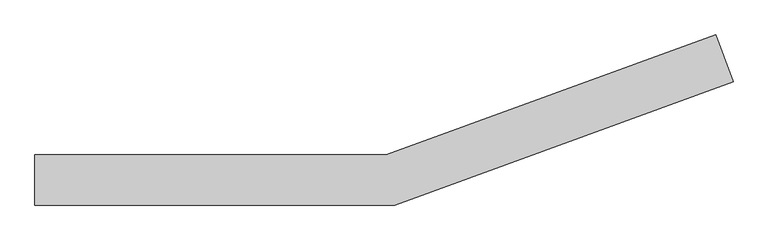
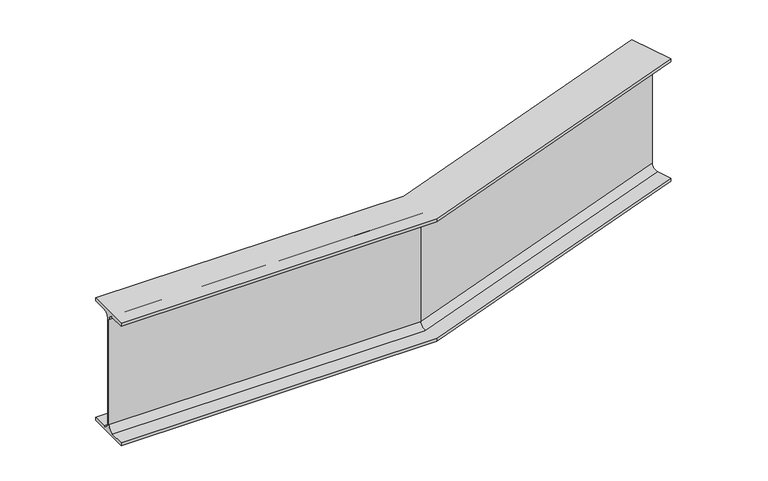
"""IFC4 building model written with IfcOpenShell, lengths in millimetres: beam geometry, Cranked Beam B1 : Cranked Beam B1."""

from ifc_helpers import new_model, si_unit, frame, origin, place, context, project, spatial, polyline, circle_curve, ellipse_curve, source, transform, mapped, element, save
from ifc_brep_helpers import plane_surface, revolved_surface, advanced_brep


def beam_3adde7b2(model_context):
    return source(origin(), model_context, "Body", "AdvancedBrep", [
        advanced_brep(
        [(30484.4500022, 15287.0000005, 3256.0), (30484.4500022, 15338.3000005, 3256.0), (30484.4500022, 15359.4000005, 3277.1), (30484.4500022, 15359.4000005, 3662.9), (30484.4500022, 15338.3000005, 3684.0), (30484.4500022, 15287.0000005, 3684.0), (30484.4500022, 15287.0000005, 3694.9), (30484.4500022, 15439.4000005, 3694.9), (30484.4500022, 15439.4000005, 3684.0), (30484.4500022, 15388.1000005, 3684.0), (30484.4500022, 15367.0000005, 3662.9), (30484.4500022, 15367.0000005, 3277.1), (30484.4500022, 15388.1000005, 3256.0), (30484.4500022, 15439.4000005, 3256.0), (30484.4500022, 15439.4000005, 3245.1), (30484.4500022, 15287.0000005, 3245.1), (31580.7314082, 15287.0000005, 3256.0), (32610.8989551, 15661.9503238, 3256.0), (32593.3533217, 15710.1565552, 3256.0), (31571.6858341, 15338.3000005, 3256.0), (31567.9653348, 15359.4000005, 3277.1), (31567.9653348, 15359.4000005, 3662.9), (31571.6858341, 15338.3000005, 3684.0), (32593.3533217, 15710.1565552, 3684.0), (32610.8989551, 15661.9503238, 3684.0), (31580.7314082, 15287.0000005, 3684.0), (31580.7314082, 15287.0000005, 3694.9), (32610.8989551, 15661.9503238, 3694.9), (32558.7750852, 15805.1594792, 3694.9), (31553.8591764, 15439.4000005, 3694.9), (31553.8591764, 15439.4000005, 3684.0), (32558.7750852, 15805.1594792, 3684.0), (32576.3207186, 15756.9532478, 3684.0), (31562.9047505, 15388.1000005, 3684.0), (31566.6252498, 15367.0000005, 3662.9), (31566.6252498, 15367.0000005, 3277.1), (31562.9047505, 15388.1000005, 3256.0), (32576.3207186, 15756.9532478, 3256.0), (32558.7750852, 15805.1594792, 3256.0), (31553.8591764, 15439.4000005, 3256.0), (31553.8591764, 15439.4000005, 3245.1), (32558.7750852, 15805.1594792, 3245.1), (32610.8989551, 15661.9503238, 3245.1), (31580.7314082, 15287.0000005, 3245.1), (32583.5373436, 15737.1257335, 3277.1), (32583.5373436, 15737.1257335, 3662.9), (32586.1366967, 15729.9840695, 3662.9), (32586.1366967, 15729.9840695, 3277.1)],
        [
            (0, 1),
            (1, 2, circle_curve(frame((30484.4500022, 15338.3000005, 3277.1), z_axis=(1.0, 0.0, 0.0), x_axis=(0.0, 1.0, 0.0)), 21.1)),
            (2, 3),
            (3, 4, circle_curve(frame((30484.4500022, 15338.3000005, 3662.9), z_axis=(1.0, 0.0, 0.0), x_axis=(0.0, 1.0, 0.0)), 21.1)),
            (4, 5),
            (5, 6),
            (6, 7),
            (7, 8),
            (8, 9),
            (9, 10, circle_curve(frame((30484.4500022, 15388.1000005, 3662.9), z_axis=(1.0, 0.0, 0.0), x_axis=(0.0, 1.0, 0.0)), 21.1)),
            (10, 11),
            (11, 12, circle_curve(frame((30484.4500022, 15388.1000005, 3277.1), z_axis=(1.0, 0.0, 0.0), x_axis=(0.0, 1.0, 0.0)), 21.1)),
            (12, 13),
            (13, 14),
            (14, 15),
            (15, 0),
            (0, 16),
            (16, 17),
            (17, 18),
            (18, 19),
            (19, 1),
            (19, 20, ellipse_curve(frame((31571.6858341, 15338.3000005, 3277.1), z_axis=(0.9848077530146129, 0.17364817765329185, 0.0), x_axis=(0.17364817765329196, -0.984807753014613, 0.0)), 21.4255015, 21.1)),
            (20, 2),
            (20, 21),
            (21, 3),
            (21, 22, ellipse_curve(frame((31571.6858341, 15338.3000005, 3662.9), z_axis=(0.9848077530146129, 0.17364817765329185, 0.0), x_axis=(0.17364817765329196, -0.984807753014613, 0.0)), 21.4255015, 21.1)),
            (22, 4),
            (22, 23),
            (23, 24),
            (24, 25),
            (25, 5),
            (25, 26),
            (26, 6),
            (26, 27),
            (27, 28),
            (28, 29),
            (29, 7),
            (29, 30),
            (30, 8),
            (30, 31),
            (31, 32),
            (32, 33),
            (33, 9),
            (33, 34, ellipse_curve(frame((31562.9047505, 15388.1000005, 3662.9), z_axis=(0.9848077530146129, 0.17364817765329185, 0.0), x_axis=(0.17364817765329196, -0.984807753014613, 0.0)), 21.4255015, 21.1)),
            (34, 10),
            (34, 35),
            (35, 11),
            (35, 36, ellipse_curve(frame((31562.9047505, 15388.1000005, 3277.1), z_axis=(0.9848077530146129, 0.17364817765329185, 0.0), x_axis=(0.17364817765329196, -0.984807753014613, 0.0)), 21.4255015, 21.1)),
            (36, 12),
            (36, 37),
            (37, 38),
            (38, 39),
            (39, 13),
            (39, 40),
            (40, 14),
            (40, 41),
            (41, 42),
            (42, 43),
            (43, 15),
            (43, 16),
            (17, 42),
            (41, 38),
            (37, 44, circle_curve(frame((32576.3207186, 15756.9532478, 3277.1), z_axis=(-0.9396926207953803, -0.34202014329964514, 0.0), x_axis=(-0.34202014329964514, 0.9396926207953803, 0.0)), 21.1)),
            (44, 45),
            (45, 32, circle_curve(frame((32576.3207186, 15756.9532478, 3662.9), z_axis=(-0.9396926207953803, -0.34202014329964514, 0.0), x_axis=(-0.34202014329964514, 0.9396926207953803, 0.0)), 21.1)),
            (31, 28),
            (27, 24),
            (23, 46, circle_curve(frame((32593.3533217, 15710.1565552, 3662.9), z_axis=(-0.9396926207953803, -0.34202014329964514, 0.0), x_axis=(-0.34202014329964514, 0.9396926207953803, 0.0)), 21.1)),
            (46, 47),
            (47, 18, circle_curve(frame((32593.3533217, 15710.1565552, 3277.1), z_axis=(-0.9396926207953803, -0.34202014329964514, 0.0), x_axis=(-0.34202014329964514, 0.9396926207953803, 0.0)), 21.1)),
            (47, 20),
            (46, 21),
            (45, 34),
            (44, 35),
        ],
        [
            plane_surface(frame((30484.4500022, 15363.2000005, 3695.0), z_axis=(-1.0, 0.0, 0.0), x_axis=(0.0, 0.0, 1.0))),
            plane_surface(frame((30484.4500022, 15287.0000005, 3256.0), z_axis=(0.0, 0.0, 1.0), x_axis=(1.0, 0.0, 0.0))),
            revolved_surface(polyline([(31575.406333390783, 15359.4000005, 3277.1), (30484.4500022, 15359.4000005, 3277.1)]), (30484.4500022, 15338.3000005, 3277.1), (1.0, 0.0, 0.0)),
            plane_surface(frame((30484.4500022, 15359.4000005, 3277.1), z_axis=(0.0, -1.0, 0.0), x_axis=(1.0, 0.0, 0.0))),
            revolved_surface(polyline([(31575.406333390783, 15359.4000005, 3662.9), (30484.4500022, 15359.4000005, 3662.9)]), (30484.4500022, 15338.3000005, 3662.9), (1.0, 0.0, 0.0)),
            plane_surface(frame((30484.4500022, 15338.3000005, 3684.0), z_axis=(0.0, 0.0, -1.0), x_axis=(1.0, 0.0, 0.0))),
            plane_surface(frame((30484.4500022, 15287.0000005, 3684.0), z_axis=(0.0, -1.0, 0.0), x_axis=(1.0, 0.0, 0.0))),
            plane_surface(frame((30484.4500022, 15287.0000005, 3694.9), z_axis=(0.0, 0.0, 1.0), x_axis=(1.0, 0.0, 0.0))),
            plane_surface(frame((30484.4500022, 15439.4000005, 3694.9), z_axis=(0.0, 1.0, 0.0), x_axis=(1.0, 0.0, 0.0))),
            plane_surface(frame((30484.4500022, 15439.4000005, 3684.0), z_axis=(0.0, 0.0, -1.0), x_axis=(1.0, 0.0, 0.0))),
            revolved_surface(polyline([(31566.6252498, 15409.2000005, 3662.9), (30484.4500022, 15409.2000005, 3662.9)]), (30484.4500022, 15388.1000005, 3662.9), (1.0, 0.0, 0.0)),
            plane_surface(frame((30484.4500022, 15367.0000005, 3662.9), z_axis=(0.0, 1.0, 0.0), x_axis=(1.0, 0.0, 0.0))),
            revolved_surface(polyline([(31566.6252498, 15409.2000005, 3277.1), (30484.4500022, 15409.2000005, 3277.1)]), (30484.4500022, 15388.1000005, 3277.1), (1.0, 0.0, 0.0)),
            plane_surface(frame((30484.4500022, 15388.1000005, 3256.0), z_axis=(0.0, 0.0, 1.0), x_axis=(1.0, 0.0, 0.0))),
            plane_surface(frame((30484.4500022, 15439.4000005, 3256.0), z_axis=(0.0, 1.0, 0.0), x_axis=(1.0, 0.0, 0.0))),
            plane_surface(frame((30484.4500022, 15439.4000005, 3245.1), z_axis=(0.0, 0.0, -1.0), x_axis=(1.0, 0.0, 0.0))),
            plane_surface(frame((30484.4500022, 15287.0000005, 3245.1), z_axis=(0.0, -1.0, 0.0), x_axis=(1.0, 0.0, 0.0))),
            plane_surface(frame((32584.8370201, 15733.5549015, 3695.0), z_axis=(0.9396926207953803, 0.34202014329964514, 0.0), x_axis=(0.0, 0.0, 1.0))),
            revolved_surface(polyline([(32586.136696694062, 15729.98406951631, 3277.1), (31560.973083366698, 15356.855029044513, 3277.1)]), (31575.8115939, 15339.8016542, 3277.1), (0.9396926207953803, 0.34202014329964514, 0.0)),
            plane_surface(frame((31567.9653348, 15359.4000005, 3277.1), z_axis=(0.34202014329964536, -0.9396926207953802, 0.0), x_axis=(0.9396926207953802, 0.34202014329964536, 0.0))),
            revolved_surface(polyline([(32586.136696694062, 15729.98406951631, 3662.9), (31560.973083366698, 15356.855029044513, 3662.9)]), (31575.8115939, 15339.8016542, 3662.9), (0.9396926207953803, 0.34202014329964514, 0.0)),
            plane_surface(frame((31580.7314082, 15287.0000005, 3684.0), z_axis=(0.3420201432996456, -0.9396926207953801, 0.0), x_axis=(0.9396926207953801, 0.3420201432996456, 0.0))),
            plane_surface(frame((31553.8591764, 15439.4000005, 3694.9), z_axis=(-0.34202014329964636, 0.9396926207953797, 0.0), x_axis=(0.9396926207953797, 0.34202014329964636, 0.0))),
            revolved_surface(polyline([(32569.104093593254, 15776.780762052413, 3662.9), (31552.191999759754, 15406.655029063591, 3662.9)]), (31558.7789907, 15386.5983467, 3662.9), (0.9396926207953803, 0.34202014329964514, 0.0)),
            plane_surface(frame((31566.6252498, 15367.0000005, 3662.9), z_axis=(-0.3420201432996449, 0.9396926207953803, 0.0), x_axis=(0.9396926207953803, 0.3420201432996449, 0.0))),
            revolved_surface(polyline([(32569.104093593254, 15776.780762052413, 3277.1), (31552.191999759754, 15406.655029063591, 3277.1)]), (31558.7789907, 15386.5983467, 3277.1), (0.9396926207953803, 0.34202014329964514, 0.0)),
            plane_surface(frame((31553.8591764, 15439.4000005, 3256.0), z_axis=(-0.34202014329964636, 0.9396926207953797, 0.0), x_axis=(0.9396926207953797, 0.34202014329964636, 0.0))),
            plane_surface(frame((31580.7314082, 15287.0000005, 3245.1), z_axis=(0.3420201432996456, -0.9396926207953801, 0.0), x_axis=(0.9396926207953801, 0.3420201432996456, 0.0))),
        ],
        [
            (0, [[1, 2, 3, 4, 5, 6, 7, 8, 9, 10, 11, 12, 13, 14, 15, 16]]),
            (1, [[-1, 17, 18, 19, 20, 21]]),
            (2, [[-2, -21, 22, 23]]),
            (3, [[-3, -23, 24, 25]]),
            (4, [[-4, -25, 26, 27]]),
            (5, [[-5, -27, 28, 29, 30, 31]]),
            (6, [[-6, -31, 32, 33]]),
            (7, [[-7, -33, 34, 35, 36, 37]]),
            (8, [[-8, -37, 38, 39]]),
            (9, [[-9, -39, 40, 41, 42, 43]]),
            (10, [[-10, -43, 44, 45]]),
            (11, [[-11, -45, 46, 47]]),
            (12, [[-12, -47, 48, 49]]),
            (13, [[-13, -49, 50, 51, 52, 53]]),
            (14, [[-14, -53, 54, 55]]),
            (15, [[-15, -55, 56, 57, 58, 59]]),
            (16, [[-16, -59, 60, -17]]),
            (17, [[61, -57, 62, -51, 63, 64, 65, -41, 66, -35, 67, -29, 68, 69, 70, -19]]),
            (18, [[-22, -20, -70, 71]]),
            (19, [[-24, -71, -69, 72]]),
            (20, [[-26, -72, -68, -28]]),
            (21, [[-32, -30, -67, -34]]),
            (22, [[-38, -36, -66, -40]]),
            (23, [[-44, -42, -65, 73]]),
            (24, [[-46, -73, -64, 74]]),
            (25, [[-48, -74, -63, -50]]),
            (26, [[-54, -52, -62, -56]]),
            (27, [[-60, -58, -61, -18]]),
        ],
    ),
    ])


if __name__ == "__main__":
    model = new_model("IFC4")
    model_context = context("Model", 3, world=origin())
    ifc_project = project(units=[si_unit("LENGTHUNIT", "METRE", prefix="MILLI")], contexts=[model_context])
    site = spatial("IfcSite", under=ifc_project)
    building = spatial("IfcBuilding", under=site)
    placement = place(None, origin())
    beam_shape = beam_3adde7b2(model_context)
    element("IfcBeam", 1, ObjectType="Cranked Beam B1 : Cranked Beam B1", at=placement, inside=building, context=model_context, shape_type="MappedRepresentation", body=[
        mapped(beam_shape, transform((0.0, 0.0, 0.0), x_axis=(1.0, 0.0, 0.0), y_axis=(0.0, 1.0, 0.0), z_axis=(0.0, 0.0, 1.0))),
    ])
    save(model, "model.ifc")
